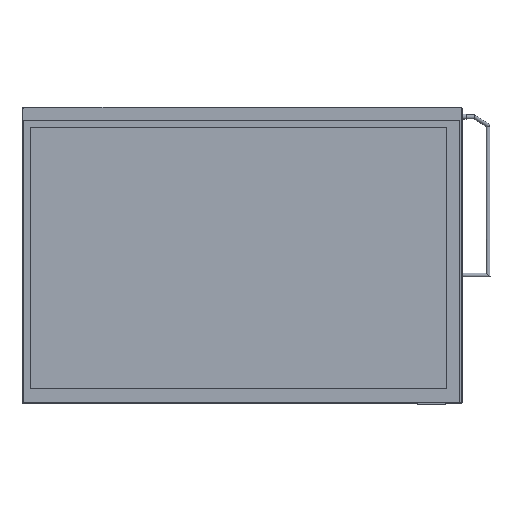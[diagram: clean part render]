
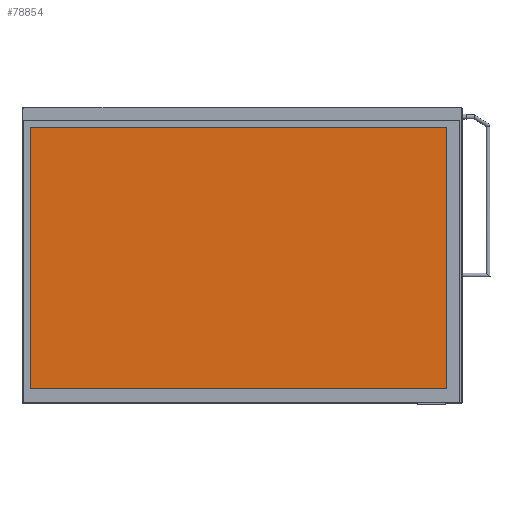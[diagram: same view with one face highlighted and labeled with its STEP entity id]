
A CAD part, top view. The second image highlights one B-rep face of the part: STEP entity #78854.
In plain terms, the highlighted planar face has unit normal (0, 0, 1).
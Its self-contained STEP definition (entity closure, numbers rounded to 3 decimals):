
#3379=PLANE('',#98713);
#11824=LINE('',#138516,#21503);
#11825=LINE('',#138519,#21504);
#11826=LINE('',#138521,#21505);
#11827=LINE('',#138523,#21506);
#21503=VECTOR('',#116369,1000.);
#21504=VECTOR('',#116370,1000.);
#21505=VECTOR('',#116371,1000.);
#21506=VECTOR('',#116372,1000.);
#40418=ORIENTED_EDGE('',*,*,#53250,.F.);
#40419=ORIENTED_EDGE('',*,*,#53251,.F.);
#40420=ORIENTED_EDGE('',*,*,#53252,.F.);
#40421=ORIENTED_EDGE('',*,*,#53253,.F.);
#53250=EDGE_CURVE('',#61256,#61257,#11824,.T.);
#53251=EDGE_CURVE('',#61258,#61256,#11825,.T.);
#53252=EDGE_CURVE('',#61259,#61258,#11826,.T.);
#53253=EDGE_CURVE('',#61257,#61259,#11827,.T.);
#61256=VERTEX_POINT('',#138517);
#61257=VERTEX_POINT('',#138518);
#61258=VERTEX_POINT('',#138520);
#61259=VERTEX_POINT('',#138522);
#68375=EDGE_LOOP('',(#40418,#40419,#40420,#40421));
#73878=FACE_BOUND('',#68375,.T.);
#78854=ADVANCED_FACE('',(#73878),#3379,.F.);
#98713=AXIS2_PLACEMENT_3D('',#138515,#116367,#116368);
#116367=DIRECTION('',(0.,0.,-1.));
#116368=DIRECTION('',(0.,1.,0.));
#116369=DIRECTION('',(-1.,0.,0.));
#116370=DIRECTION('',(0.,-1.,0.));
#116371=DIRECTION('',(1.,0.,0.));
#116372=DIRECTION('',(0.,1.,0.));
#138515=CARTESIAN_POINT('',(-26.826,-25.93,2.9));
#138516=CARTESIAN_POINT('',(80.879,-67.61,2.9));
#138517=CARTESIAN_POINT('',(80.879,-67.61,2.9));
#138518=CARTESIAN_POINT('',(-137.121,-67.61,2.9));
#138519=CARTESIAN_POINT('',(80.879,69.39,2.9));
#138520=CARTESIAN_POINT('',(80.879,69.39,2.9));
#138521=CARTESIAN_POINT('',(-137.121,69.39,2.9));
#138522=CARTESIAN_POINT('',(-137.121,69.39,2.9));
#138523=CARTESIAN_POINT('',(-137.121,-67.61,2.9));
